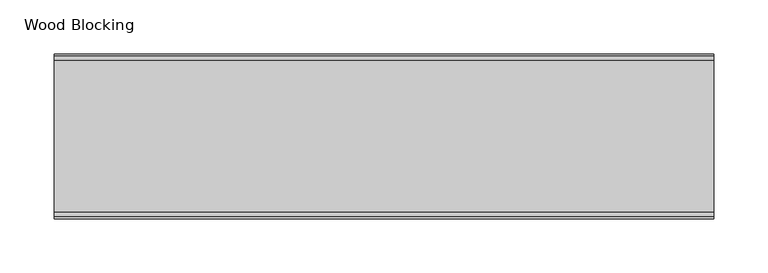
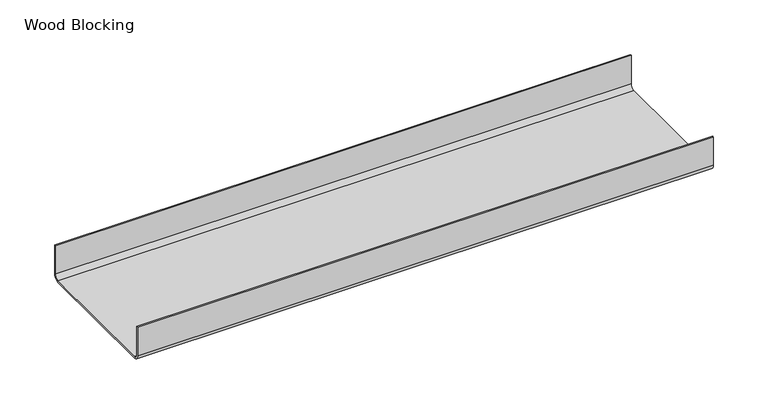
"""IFC4 building model written with IfcOpenShell, lengths in millimetres: proxy geometry, CRAi Generic Model Line Based Metal Framing Track : Wood Blocking."""

from ifc_helpers import new_model, si_unit, point, frame, frame_2d, origin, place, context, project, spatial, polyline, circle_curve, trimmed, segment, composite_curve, outline, extrude, source, transform, mapped, element, save


def wood_blocking_c9818c35(model_context):
    return source(origin(), model_context, "Body", "SweptSolid", [
        extrude(outline(composite_curve([segment(polyline([(146.05, 0.0), (6.35, 0.0)]), True, "CONTINUOUS"), segment(trimmed(circle_curve(frame_2d((6.35, 6.35)), 6.35), [point((6.35, 0.0))], [point((0.0, 6.35))], False, "CARTESIAN"), True, "CONTINUOUS"), segment(polyline([(0.0, 6.35), (0.0, 38.1), (1.5875, 38.1), (1.5875, 6.35)]), True, "CONTINUOUS"), segment(trimmed(circle_curve(frame_2d((6.35, 6.35)), 4.7625), [point((1.5875, 6.35))], [point((6.35, 1.5875))], True, "CARTESIAN"), True, "CONTINUOUS"), segment(polyline([(6.35, 1.5875), (146.0504713, 1.5875)]), True, "CONTINUOUS"), segment(trimmed(circle_curve(frame_2d((146.05, 6.35)), 4.7625), [point((146.0504713, 1.5875))], [point((150.8125, 6.3495615))], True, "CARTESIAN"), True, "CONTINUOUS"), segment(polyline([(150.8125, 6.3495615), (150.8125, 38.1), (152.4, 38.1), (152.4, 6.35)]), True, "CONTINUOUS"), segment(trimmed(circle_curve(frame_2d((146.05, 6.35)), 6.35), [point((152.4, 6.35))], [point((146.05, 0.0))], False, "CARTESIAN"), True, "CONTINUOUS")], self_intersect=False)), frame((0.0, 0.0, 0.0), z_axis=(1.0, 0.0, 0.0), x_axis=(0.0, 1.0, 0.0)), (0.0, 0.0, 1.0), 609.6),
    ])


if __name__ == "__main__":
    model = new_model("IFC4")
    model_context = context("Model", 3, world=origin())
    ifc_project = project(units=[si_unit("LENGTHUNIT", "METRE", prefix="MILLI")], contexts=[model_context])
    site = spatial("IfcSite", under=ifc_project)
    building = spatial("IfcBuilding", under=site)
    placement = place(None, origin())
    wood_blocking_shape = wood_blocking_c9818c35(model_context)
    element("IfcBuildingElementProxy", 1, Name="CRAi Generic Model Line Based Metal Framing Track : Wood Blocking", ObjectType="CRAi Generic Model Line Based Metal Framing Track : Wood Blocking", at=placement, inside=building, context=model_context, shape_type="MappedRepresentation", body=[
        mapped(wood_blocking_shape, transform((0.0, 0.0, 0.0), x_axis=(1.0, 0.0, 0.0), y_axis=(0.0, 1.0, 0.0), z_axis=(0.0, 0.0, 1.0))),
    ])
    save(model, "model.ifc")
